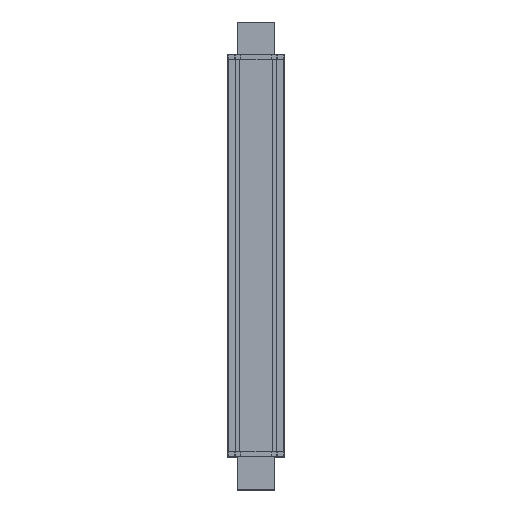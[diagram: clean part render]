
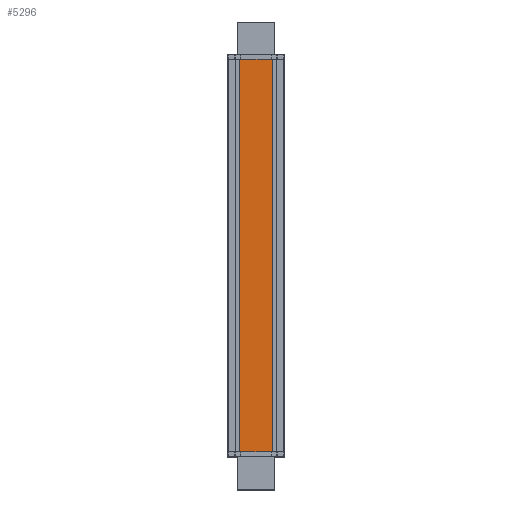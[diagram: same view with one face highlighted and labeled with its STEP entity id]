
A CAD part, top view. The second image highlights one B-rep face of the part: STEP entity #5296.
In plain terms, the highlighted planar face has unit normal (0, 0, 1) as drawn and (0, -1, 0) by its records, which use the part's own axes.
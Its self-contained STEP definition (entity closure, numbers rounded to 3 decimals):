
#345 = LINE ( 'NONE', #5198, #9051 ) ;
#452 = DIRECTION ( 'NONE',  ( 1., 0., 0. ) ) ;
#1230 = VECTOR ( 'NONE', #9903, 1000. ) ;
#1326 = VERTEX_POINT ( 'NONE', #12890 ) ;
#1435 = LINE ( 'NONE', #3177, #1230 ) ;
#2355 = EDGE_CURVE ( 'NONE', #1326, #11148, #345, .T. ) ;
#3177 = CARTESIAN_POINT ( 'NONE',  ( 34.95, -30., 420. ) ) ;
#4576 = CARTESIAN_POINT ( 'NONE',  ( -34.95, -30., -420. ) ) ;
#5198 = CARTESIAN_POINT ( 'NONE',  ( -34.95, -30., 420. ) ) ;
#5296 = ADVANCED_FACE ( 'NONE', ( #8065 ), #16106, .F. ) ;
#6231 = VERTEX_POINT ( 'NONE', #9741 ) ;
#7122 = ORIENTED_EDGE ( 'NONE', *, *, #7318, .F. ) ;
#7318 = EDGE_CURVE ( 'NONE', #11148, #6231, #1435, .T. ) ;
#7567 = DIRECTION ( 'NONE',  ( 0., 0., -1. ) ) ;
#7578 = EDGE_LOOP ( 'NONE', ( #18648, #7122, #17093, #13963 ) ) ;
#8065 = FACE_OUTER_BOUND ( 'NONE', #7578, .T. ) ;
#9051 = VECTOR ( 'NONE', #452, 1000. ) ;
#9364 = VERTEX_POINT ( 'NONE', #9750 ) ;
#9741 = CARTESIAN_POINT ( 'NONE',  ( 34.95, -30., -420. ) ) ;
#9750 = CARTESIAN_POINT ( 'NONE',  ( -34.95, -30., -420. ) ) ;
#9903 = DIRECTION ( 'NONE',  ( 0., 0., -1. ) ) ;
#10010 = EDGE_CURVE ( 'NONE', #1326, #9364, #20869, .T. ) ;
#10648 = CARTESIAN_POINT ( 'NONE',  ( -34.95, -30., 420. ) ) ;
#11148 = VERTEX_POINT ( 'NONE', #16750 ) ;
#11259 = DIRECTION ( 'NONE',  ( 0., 1., 0. ) ) ;
#11409 = VECTOR ( 'NONE', #7567, 1000. ) ;
#12890 = CARTESIAN_POINT ( 'NONE',  ( -34.95, -30., 420. ) ) ;
#13079 = DIRECTION ( 'NONE',  ( 1., 0., 0. ) ) ;
#13490 = LINE ( 'NONE', #4576, #14625 ) ;
#13963 = ORIENTED_EDGE ( 'NONE', *, *, #10010, .T. ) ;
#14625 = VECTOR ( 'NONE', #13079, 1000. ) ;
#16106 = PLANE ( 'NONE',  #16421 ) ;
#16421 = AXIS2_PLACEMENT_3D ( 'NONE', #17845, #11259, #19373 ) ;
#16750 = CARTESIAN_POINT ( 'NONE',  ( 34.95, -30., 420. ) ) ;
#17093 = ORIENTED_EDGE ( 'NONE', *, *, #2355, .F. ) ;
#17845 = CARTESIAN_POINT ( 'NONE',  ( -34.95, -30., 420. ) ) ;
#18337 = EDGE_CURVE ( 'NONE', #9364, #6231, #13490, .T. ) ;
#18648 = ORIENTED_EDGE ( 'NONE', *, *, #18337, .T. ) ;
#19373 = DIRECTION ( 'NONE',  ( -1., 0., 0. ) ) ;
#20869 = LINE ( 'NONE', #10648, #11409 ) ;
